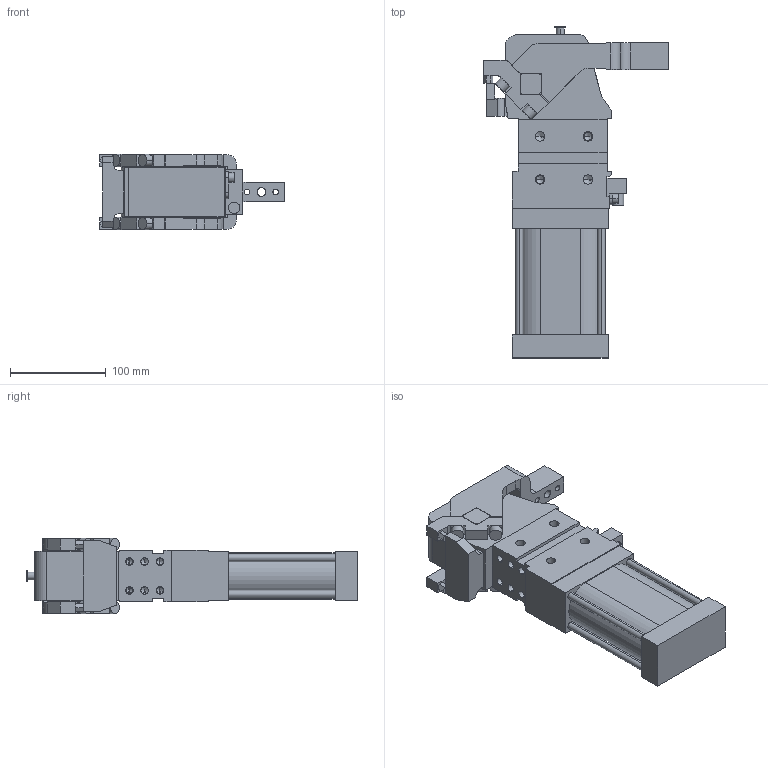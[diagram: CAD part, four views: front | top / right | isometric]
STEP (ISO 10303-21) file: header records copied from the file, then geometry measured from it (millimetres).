
FILE_DESCRIPTION (( 'STEP AP214' ), '1' );
FILE_NAME ('cpl63tv1csi1g_16.STEP', '2023-01-26T10:35:03', ( '' ), ( '' ), 'SwSTEP 2.0', 'SolidWorks 2022', '' );
FILE_SCHEMA (( 'AUTOMOTIVE_DESIGN' ));
Length unit declared in the file: millimetre
Products named in the file (4): blocchetto_VEP_0; meccanica_cpl_63_tassello_esterno; cpl63tv1csi1g_16; leva_v1cs_cpl63t
Assembly tree (3 placements, depth 2):
  cpl63tv1csi1g_16
    meccanica_cpl_63_tassello_esterno
    blocchetto_VEP_0
    leva_v1cs_cpl63t
Bounding box: 193 x 347 x 79 mm (x, y, z)
Volume: 1821885.9 mm3; surface area: 197712.2 mm2
Topology: 3 solids, 3 shells, 433 faces, 1142 edges, 709 vertices
Faces by surface type: plane 229, cylinder 154, cone 50
Entity records: 14638 total; most frequent: CARTESIAN_POINT 2328, DIRECTION 2310, ORIENTED_EDGE 2192, EDGE_CURVE 1096, AXIS2_PLACEMENT_3D 781, VECTOR 748, LINE 748, VERTEX_POINT 709
